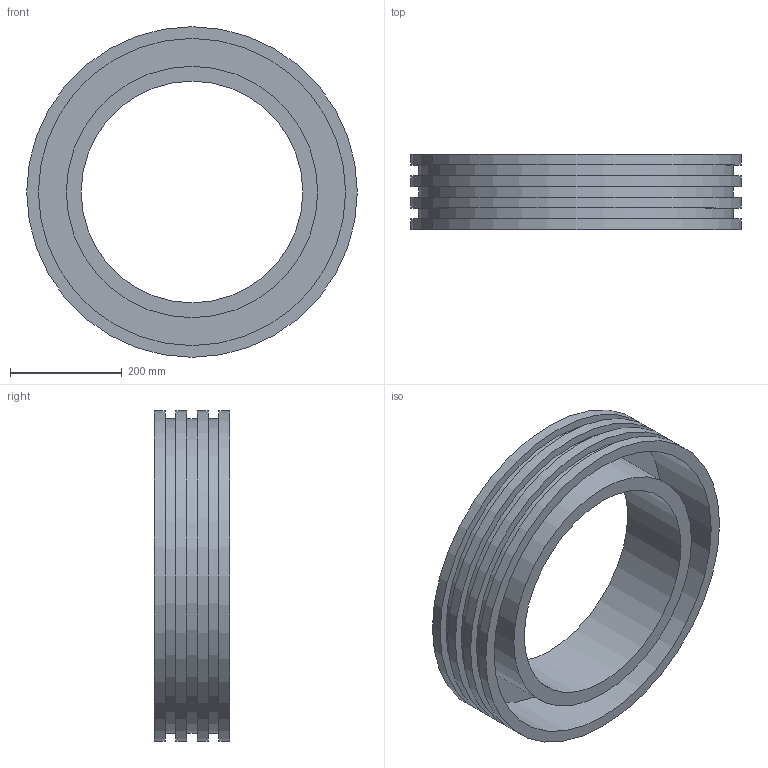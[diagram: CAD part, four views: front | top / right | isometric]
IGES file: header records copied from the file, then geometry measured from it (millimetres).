
Global section: file name: 37020450.ipt; native system: Autodesk Inventor 2015; preprocessor: unknown; author: Кирилл,,11,0; organization: 20170830.190241; date: 20171106.093320; units: millimetre
Bounding box: 592 x 135 x 592 mm (x, y, z)
Volume: 9049921.8 mm3; surface area: 1271850 mm2
Topology: 1 solids, 1 shells, 20 faces, 34 edges, 24 vertices
Faces by surface type: plane 10, cylinder 8, revolution 2
Full cylindrical faces by diameter (mm): 450 x1, 562.4 x3, 592 x4
